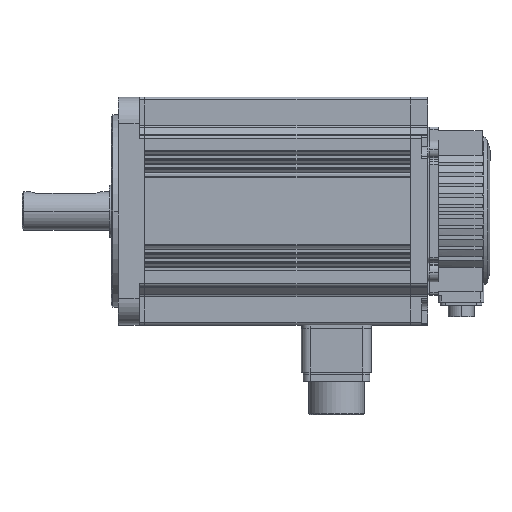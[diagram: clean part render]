
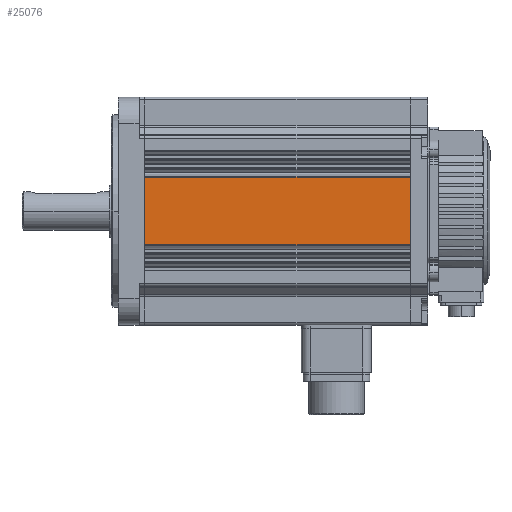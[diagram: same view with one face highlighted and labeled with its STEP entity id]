
A CAD part, top view. The second image highlights one B-rep face of the part: STEP entity #25076.
In plain terms, the highlighted planar face has unit normal (0, 0, 1).
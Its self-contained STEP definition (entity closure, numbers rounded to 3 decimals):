
#3035 = CARTESIAN_POINT ( 'NONE',  ( 54.322, -14.041, 65. ) ) ;
#5929 = EDGE_CURVE ( 'NONE', #10420, #37646, #26991, .T. ) ;
#10420 = VERTEX_POINT ( 'NONE', #27669 ) ;
#14522 = VERTEX_POINT ( 'NONE', #32773 ) ;
#15633 = LINE ( 'NONE', #37386, #53340 ) ;
#16332 = AXIS2_PLACEMENT_3D ( 'NONE', #27075, #35400, #35582 ) ;
#18151 = EDGE_LOOP ( 'NONE', ( #34746, #39973, #50051, #30093 ) ) ;
#19515 = VECTOR ( 'NONE', #49843, 1000. ) ;
#20321 = FACE_OUTER_BOUND ( 'NONE', #18151, .T. ) ;
#20736 = CARTESIAN_POINT ( 'NONE',  ( 130.322, 24.572, 65. ) ) ;
#25076 = ADVANCED_FACE ( 'NONE', ( #20321 ), #26728, .F. ) ;
#26728 = PLANE ( 'NONE',  #16332 ) ;
#26991 = LINE ( 'NONE', #38255, #30880 ) ;
#27075 = CARTESIAN_POINT ( 'NONE',  ( 130.322, 24.572, 65. ) ) ;
#27669 = CARTESIAN_POINT ( 'NONE',  ( -21.678, -14.041, 65. ) ) ;
#28991 = DIRECTION ( 'NONE',  ( 0., 1., 0. ) ) ;
#29957 = VECTOR ( 'NONE', #53189, 1000. ) ;
#30093 = ORIENTED_EDGE ( 'NONE', *, *, #5929, .F. ) ;
#30880 = VECTOR ( 'NONE', #28991, 1000. ) ;
#31653 = VERTEX_POINT ( 'NONE', #33956 ) ;
#31856 = LINE ( 'NONE', #20736, #19515 ) ;
#32773 = CARTESIAN_POINT ( 'NONE',  ( 130.322, -14.041, 65. ) ) ;
#33853 = EDGE_CURVE ( 'NONE', #14522, #10420, #36498, .T. ) ;
#33956 = CARTESIAN_POINT ( 'NONE',  ( 130.322, 24.572, 65. ) ) ;
#34746 = ORIENTED_EDGE ( 'NONE', *, *, #33853, .F. ) ;
#35400 = DIRECTION ( 'NONE',  ( 0., 0., -1. ) ) ;
#35582 = DIRECTION ( 'NONE',  ( 0., -1., 0. ) ) ;
#36498 = LINE ( 'NONE', #3035, #29957 ) ;
#37386 = CARTESIAN_POINT ( 'NONE',  ( 54.322, 24.572, 65. ) ) ;
#37646 = VERTEX_POINT ( 'NONE', #47659 ) ;
#38255 = CARTESIAN_POINT ( 'NONE',  ( -21.678, -59.735, 65. ) ) ;
#39973 = ORIENTED_EDGE ( 'NONE', *, *, #52498, .T. ) ;
#44628 = EDGE_CURVE ( 'NONE', #37646, #31653, #15633, .T. ) ;
#46151 = DIRECTION ( 'NONE',  ( 1., 0., 0. ) ) ;
#47659 = CARTESIAN_POINT ( 'NONE',  ( -21.678, 24.572, 65. ) ) ;
#49843 = DIRECTION ( 'NONE',  ( 0., 1., 0. ) ) ;
#50051 = ORIENTED_EDGE ( 'NONE', *, *, #44628, .F. ) ;
#52498 = EDGE_CURVE ( 'NONE', #14522, #31653, #31856, .T. ) ;
#53189 = DIRECTION ( 'NONE',  ( -1., 0., 0. ) ) ;
#53340 = VECTOR ( 'NONE', #46151, 1000. ) ;
